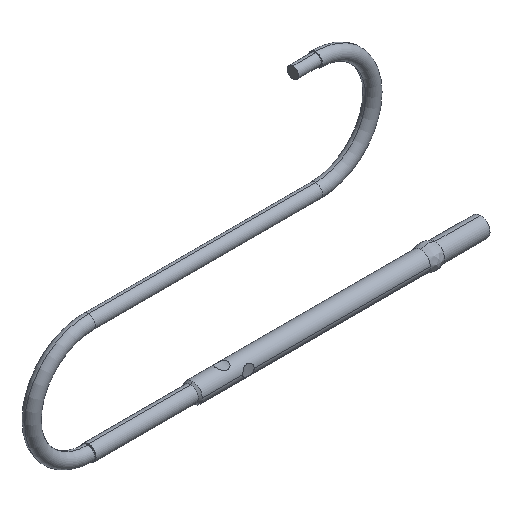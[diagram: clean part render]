
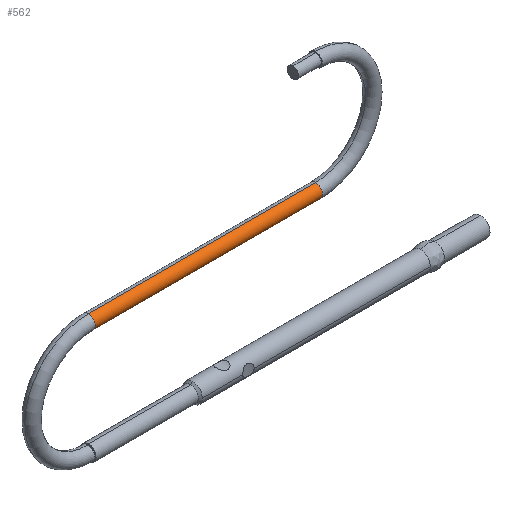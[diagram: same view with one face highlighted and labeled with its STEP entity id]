
A CAD part, isometric view. The second image highlights one B-rep face of the part: STEP entity #562.
In plain terms, the highlighted cylindrical face has radius 0.305 mm (diameter 0.61 mm), a partial arc.
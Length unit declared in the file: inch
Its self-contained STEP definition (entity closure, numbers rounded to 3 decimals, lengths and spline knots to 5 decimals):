
#20 = CARTESIAN_POINT ( 'NONE',  ( 0.4, 0., 0.188 ) ) ;
#33 = CARTESIAN_POINT ( 'NONE',  ( 0., 0., 0.212 ) ) ;
#69 = DIRECTION ( 'NONE',  ( 1., 0., 0. ) ) ;
#111 = CARTESIAN_POINT ( 'NONE',  ( 0., 0., 0.188 ) ) ;
#131 = CARTESIAN_POINT ( 'NONE',  ( 0., 0., 0.188 ) ) ;
#298 = ORIENTED_EDGE ( 'NONE', *, *, #1880, .F. ) ;
#328 = LINE ( 'NONE', #111, #1758 ) ;
#410 = EDGE_CURVE ( 'NONE', #820, #1895, #1499, .T. ) ;
#447 = DIRECTION ( 'NONE',  ( 1., 0., 0. ) ) ;
#465 = CYLINDRICAL_SURFACE ( 'NONE', #1663, 0.012 ) ;
#486 = EDGE_LOOP ( 'NONE', ( #298, #1378, #639, #671 ) ) ;
#562 = ADVANCED_FACE ( 'NONE', ( #1025 ), #465, .T. ) ;
#565 = CARTESIAN_POINT ( 'NONE',  ( 0., 0., 0.212 ) ) ;
#596 = CARTESIAN_POINT ( 'NONE',  ( 0.4, 0., 0.212 ) ) ;
#639 = ORIENTED_EDGE ( 'NONE', *, *, #1113, .T. ) ;
#671 = ORIENTED_EDGE ( 'NONE', *, *, #410, .F. ) ;
#758 = VERTEX_POINT ( 'NONE', #565 ) ;
#788 = CIRCLE ( 'NONE', #1595, 0.012 ) ;
#820 = VERTEX_POINT ( 'NONE', #596 ) ;
#945 = DIRECTION ( 'NONE',  ( 0., 0., -1. ) ) ;
#1025 = FACE_OUTER_BOUND ( 'NONE', #486, .T. ) ;
#1038 = LINE ( 'NONE', #33, #1899 ) ;
#1065 = EDGE_CURVE ( 'NONE', #758, #1114, #788, .T. ) ;
#1113 = EDGE_CURVE ( 'NONE', #1114, #1895, #328, .T. ) ;
#1114 = VERTEX_POINT ( 'NONE', #131 ) ;
#1199 = AXIS2_PLACEMENT_3D ( 'NONE', #1897, #1291, #1670 ) ;
#1291 = DIRECTION ( 'NONE',  ( 1., 0., 0. ) ) ;
#1378 = ORIENTED_EDGE ( 'NONE', *, *, #1065, .T. ) ;
#1499 = CIRCLE ( 'NONE', #1199, 0.012 ) ;
#1595 = AXIS2_PLACEMENT_3D ( 'NONE', #1732, #69, #945 ) ;
#1656 = DIRECTION ( 'NONE',  ( 1., 0., 0. ) ) ;
#1663 = AXIS2_PLACEMENT_3D ( 'NONE', #1798, #447, #1813 ) ;
#1670 = DIRECTION ( 'NONE',  ( 0., 0., -1. ) ) ;
#1707 = DIRECTION ( 'NONE',  ( 1., 0., 0. ) ) ;
#1732 = CARTESIAN_POINT ( 'NONE',  ( 0., 0., 0.2 ) ) ;
#1758 = VECTOR ( 'NONE', #1656, 39.37008 ) ;
#1798 = CARTESIAN_POINT ( 'NONE',  ( 0., 0., 0.2 ) ) ;
#1813 = DIRECTION ( 'NONE',  ( 0., 0., -1. ) ) ;
#1880 = EDGE_CURVE ( 'NONE', #758, #820, #1038, .T. ) ;
#1895 = VERTEX_POINT ( 'NONE', #20 ) ;
#1897 = CARTESIAN_POINT ( 'NONE',  ( 0.4, 0., 0.2 ) ) ;
#1899 = VECTOR ( 'NONE', #1707, 39.37008 ) ;
